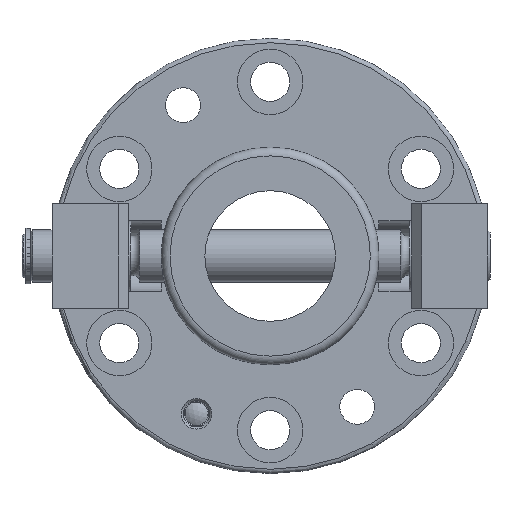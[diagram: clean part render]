
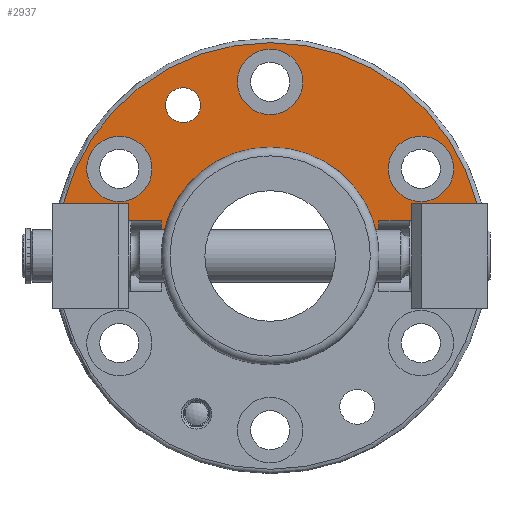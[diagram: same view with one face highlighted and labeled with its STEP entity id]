
A CAD part, front view. The second image highlights one B-rep face of the part: STEP entity #2937.
In plain terms, the highlighted planar face has unit normal (0, -1, 0).
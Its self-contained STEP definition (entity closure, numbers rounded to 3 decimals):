
#89=FACE_BOUND('',#465,.T.);
#90=FACE_BOUND('',#466,.T.);
#91=FACE_BOUND('',#467,.T.);
#92=FACE_BOUND('',#468,.T.);
#134=PLANE('',#3191);
#290=FACE_OUTER_BOUND('',#464,.T.);
#464=EDGE_LOOP('',(#2123,#2124,#2125,#2126,#2127,#2128,#2129,#2130,#2131,
#2132,#2133,#2134));
#465=EDGE_LOOP('',(#2135,#2136));
#466=EDGE_LOOP('',(#2137,#2138));
#467=EDGE_LOOP('',(#2139,#2140));
#468=EDGE_LOOP('',(#2141));
#628=LINE('',#4466,#810);
#633=LINE('',#4476,#815);
#634=LINE('',#4482,#816);
#637=LINE('',#4492,#819);
#657=LINE('',#4692,#839);
#660=LINE('',#4710,#842);
#662=LINE('',#4758,#844);
#663=LINE('',#4782,#845);
#664=LINE('',#4785,#846);
#665=LINE('',#4786,#847);
#810=VECTOR('',#3550,10.);
#815=VECTOR('',#3561,10.);
#816=VECTOR('',#3566,10.);
#819=VECTOR('',#3577,10.);
#839=VECTOR('',#3697,10.);
#842=VECTOR('',#3718,10.);
#844=VECTOR('',#3726,10.);
#845=VECTOR('',#3729,10.);
#846=VECTOR('',#3732,10.);
#847=VECTOR('',#3733,10.);
#1012=CIRCLE('',#3142,7.5);
#1013=CIRCLE('',#3143,7.5);
#1017=CIRCLE('',#3150,7.5);
#1018=CIRCLE('',#3151,7.5);
#1022=CIRCLE('',#3158,7.5);
#1023=CIRCLE('',#3159,7.5);
#1038=CIRCLE('',#3185,4.);
#1041=CIRCLE('',#3192,49.);
#1042=CIRCLE('',#3193,25.);
#1221=VERTEX_POINT('',#4463);
#1222=VERTEX_POINT('',#4465);
#1224=VERTEX_POINT('',#4474);
#1226=VERTEX_POINT('',#4479);
#1227=VERTEX_POINT('',#4481);
#1230=VERTEX_POINT('',#4490);
#1238=VERTEX_POINT('',#4519);
#1239=VERTEX_POINT('',#4520);
#1243=VERTEX_POINT('',#4534);
#1244=VERTEX_POINT('',#4535);
#1248=VERTEX_POINT('',#4549);
#1249=VERTEX_POINT('',#4550);
#1261=VERTEX_POINT('',#4626);
#1266=VERTEX_POINT('',#4681);
#1271=VERTEX_POINT('',#4703);
#1272=VERTEX_POINT('',#4709);
#1277=VERTEX_POINT('',#4757);
#1279=VERTEX_POINT('',#4781);
#1280=VERTEX_POINT('',#4783);
#1526=EDGE_CURVE('',#1222,#1221,#628,.T.);
#1532=EDGE_CURVE('',#1224,#1221,#633,.T.);
#1534=EDGE_CURVE('',#1226,#1227,#634,.T.);
#1540=EDGE_CURVE('',#1226,#1230,#637,.T.);
#1553=EDGE_CURVE('',#1238,#1239,#1012,.T.);
#1554=EDGE_CURVE('',#1239,#1238,#1013,.T.);
#1560=EDGE_CURVE('',#1243,#1244,#1017,.T.);
#1561=EDGE_CURVE('',#1244,#1243,#1018,.T.);
#1567=EDGE_CURVE('',#1248,#1249,#1022,.T.);
#1568=EDGE_CURVE('',#1249,#1248,#1023,.T.);
#1595=EDGE_CURVE('',#1261,#1266,#657,.T.);
#1601=EDGE_CURVE('',#1271,#1271,#1038,.T.);
#1603=EDGE_CURVE('',#1272,#1222,#660,.T.);
#1610=EDGE_CURVE('',#1277,#1272,#662,.T.);
#1613=EDGE_CURVE('',#1279,#1224,#663,.T.);
#1614=EDGE_CURVE('',#1280,#1279,#1041,.T.);
#1615=EDGE_CURVE('',#1227,#1280,#664,.T.);
#1616=EDGE_CURVE('',#1230,#1261,#665,.T.);
#1617=EDGE_CURVE('',#1266,#1277,#1042,.T.);
#2123=ORIENTED_EDGE('',*,*,#1613,.F.);
#2124=ORIENTED_EDGE('',*,*,#1614,.F.);
#2125=ORIENTED_EDGE('',*,*,#1615,.F.);
#2126=ORIENTED_EDGE('',*,*,#1534,.F.);
#2127=ORIENTED_EDGE('',*,*,#1540,.T.);
#2128=ORIENTED_EDGE('',*,*,#1616,.T.);
#2129=ORIENTED_EDGE('',*,*,#1595,.T.);
#2130=ORIENTED_EDGE('',*,*,#1617,.T.);
#2131=ORIENTED_EDGE('',*,*,#1610,.T.);
#2132=ORIENTED_EDGE('',*,*,#1603,.T.);
#2133=ORIENTED_EDGE('',*,*,#1526,.T.);
#2134=ORIENTED_EDGE('',*,*,#1532,.F.);
#2135=ORIENTED_EDGE('',*,*,#1553,.T.);
#2136=ORIENTED_EDGE('',*,*,#1554,.T.);
#2137=ORIENTED_EDGE('',*,*,#1560,.T.);
#2138=ORIENTED_EDGE('',*,*,#1561,.T.);
#2139=ORIENTED_EDGE('',*,*,#1567,.T.);
#2140=ORIENTED_EDGE('',*,*,#1568,.T.);
#2141=ORIENTED_EDGE('',*,*,#1601,.T.);
#2937=ADVANCED_FACE('',(#290,#89,#90,#91,#92),#134,.T.);
#3142=AXIS2_PLACEMENT_3D('',#4521,#3610,#3611);
#3143=AXIS2_PLACEMENT_3D('',#4522,#3612,#3613);
#3150=AXIS2_PLACEMENT_3D('',#4536,#3628,#3629);
#3151=AXIS2_PLACEMENT_3D('',#4537,#3630,#3631);
#3158=AXIS2_PLACEMENT_3D('',#4551,#3646,#3647);
#3159=AXIS2_PLACEMENT_3D('',#4552,#3648,#3649);
#3185=AXIS2_PLACEMENT_3D('',#4705,#3711,#3712);
#3191=AXIS2_PLACEMENT_3D('',#4780,#3727,#3728);
#3192=AXIS2_PLACEMENT_3D('',#4784,#3730,#3731);
#3193=AXIS2_PLACEMENT_3D('',#4787,#3734,#3735);
#3550=DIRECTION('',(1.,0.,0.));
#3561=DIRECTION('',(0.,0.,-1.));
#3566=DIRECTION('',(0.,0.,1.));
#3577=DIRECTION('',(1.,0.,0.));
#3610=DIRECTION('center_axis',(0.,1.,0.));
#3611=DIRECTION('ref_axis',(1.,0.,0.));
#3612=DIRECTION('center_axis',(0.,1.,0.));
#3613=DIRECTION('ref_axis',(1.,0.,0.));
#3628=DIRECTION('center_axis',(0.,1.,0.));
#3629=DIRECTION('ref_axis',(1.,0.,0.));
#3630=DIRECTION('center_axis',(0.,1.,0.));
#3631=DIRECTION('ref_axis',(1.,0.,0.));
#3646=DIRECTION('center_axis',(0.,1.,0.));
#3647=DIRECTION('ref_axis',(1.,0.,0.));
#3648=DIRECTION('center_axis',(0.,1.,0.));
#3649=DIRECTION('ref_axis',(1.,0.,0.));
#3697=DIRECTION('',(1.,0.,0.));
#3711=DIRECTION('center_axis',(0.,1.,0.));
#3712=DIRECTION('ref_axis',(1.,0.,0.));
#3718=DIRECTION('',(0.,0.,1.));
#3726=DIRECTION('',(1.,0.,0.));
#3727=DIRECTION('center_axis',(0.,-1.,0.));
#3728=DIRECTION('ref_axis',(0.,0.,-1.));
#3729=DIRECTION('',(-1.,0.,0.));
#3730=DIRECTION('center_axis',(0.,1.,0.));
#3731=DIRECTION('ref_axis',(-1.,0.,0.));
#3732=DIRECTION('',(-1.,0.,0.));
#3733=DIRECTION('',(0.,0.,-1.));
#3734=DIRECTION('center_axis',(0.,1.,0.));
#3735=DIRECTION('ref_axis',(-1.,0.,0.));
#4463=CARTESIAN_POINT('',(36.5,9.,8.1));
#4465=CARTESIAN_POINT('',(25.,9.,8.1));
#4466=CARTESIAN_POINT('',(50.,9.,8.1));
#4474=CARTESIAN_POINT('',(36.5,9.,12.));
#4476=CARTESIAN_POINT('',(36.5,9.,0.));
#4479=CARTESIAN_POINT('',(-36.5,9.,8.1));
#4481=CARTESIAN_POINT('',(-36.5,9.,12.));
#4482=CARTESIAN_POINT('',(-36.5,9.,0.));
#4490=CARTESIAN_POINT('',(-25.,9.,8.1));
#4492=CARTESIAN_POINT('',(-50.,9.,8.1));
#4519=CARTESIAN_POINT('',(-27.141,9.,20.));
#4520=CARTESIAN_POINT('',(-42.141,9.,20.));
#4521=CARTESIAN_POINT('Origin',(-34.641,9.,20.));
#4522=CARTESIAN_POINT('Origin',(-34.641,9.,20.));
#4534=CARTESIAN_POINT('',(7.5,9.,40.));
#4535=CARTESIAN_POINT('',(-7.5,9.,40.));
#4536=CARTESIAN_POINT('Origin',(0.,9.,
40.));
#4537=CARTESIAN_POINT('Origin',(0.,9.,
40.));
#4549=CARTESIAN_POINT('',(42.141,9.,20.));
#4550=CARTESIAN_POINT('',(27.141,9.,20.));
#4551=CARTESIAN_POINT('Origin',(34.641,9.,20.));
#4552=CARTESIAN_POINT('Origin',(34.641,9.,20.));
#4626=CARTESIAN_POINT('',(-25.,9.,6.1));
#4681=CARTESIAN_POINT('',(-24.244,9.,6.1));
#4692=CARTESIAN_POINT('',(0.,9.,6.1));
#4703=CARTESIAN_POINT('',(-24.,9.,34.641));
#4705=CARTESIAN_POINT('Origin',(-20.,9.,34.641));
#4709=CARTESIAN_POINT('',(25.,9.,6.1));
#4710=CARTESIAN_POINT('',(25.,9.,0.));
#4757=CARTESIAN_POINT('',(24.244,9.,6.1));
#4758=CARTESIAN_POINT('',(0.,9.,6.1));
#4780=CARTESIAN_POINT('Origin',(-37.,9.,0.));
#4781=CARTESIAN_POINT('',(47.508,9.,12.));
#4782=CARTESIAN_POINT('',(5.642,9.,12.));
#4783=CARTESIAN_POINT('',(-47.508,9.,12.));
#4784=CARTESIAN_POINT('Origin',(0.,9.,
0.));
#4785=CARTESIAN_POINT('',(-41.555,9.,12.));
#4786=CARTESIAN_POINT('',(-25.,9.,0.));
#4787=CARTESIAN_POINT('Origin',(0.,9.,
0.));
